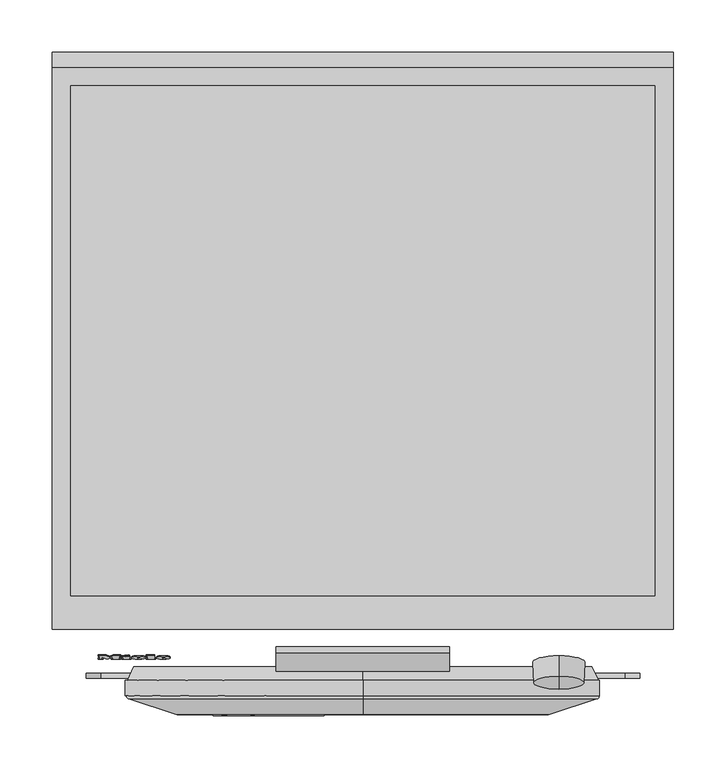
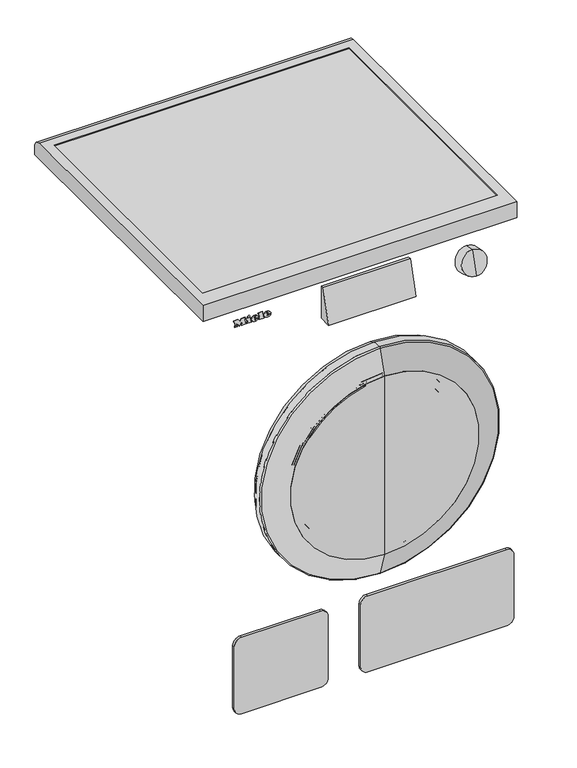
"""IFC4 building model written with IfcOpenShell, lengths in millimetres: proxy geometry, 12707010_NDS_WEC395WCS_LW : 11EC3951_NDS_12707010_WEC395WCS_LW."""

from ifc_helpers import new_model, si_unit, point, frame, frame_2d, origin, place, context, project, spatial, polyline, circle_curve, ellipse_curve, trimmed, segment, composite_curve, outline, extrude, source, transform, mapped, element, save
from ifc_brep_helpers import plane_surface, cylinder_surface, revolved_surface, extruded_surface, advanced_brep


def specialty_equipment_ca2fa9b3(model_context):
    return source(origin(), model_context, "Body", "SolidModel", [
        extrude(outline(polyline([(0.0, 0.0), (0.0, -1.8582), (-7.9458, -1.8582), (-11.286, 2.4168), (-14.6148, -1.8582), (-21.5574, -1.8582), (-21.5574, 0.0), (-20.1096, 0.0), (-20.1096, 7.6266), (-21.5574, 7.6266), (-21.5574, 9.5418), (-12.4602, 9.5418), (-12.4602, 7.6266), (-13.8624, 7.6266), (-13.8624, 2.6015777), (-8.7438, 9.5418), (-3.648, 2.7988753), (-3.648, 7.6266), (-5.016, 7.6266), (-5.016, 9.5418), (0.0, 9.5418), (0.0, 7.6266), (-1.3794, 7.6266), (-1.3794, 0.0), (0.0, 0.0)])), frame((-254.0, -578.2806922, 817.2814843), z_axis=(0.0, -0.9659258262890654, 0.2588190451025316), x_axis=(-1.0, 0.0, 0.0)), (0.0, 0.0, 1.0), 1.0),
        extrude(outline(polyline([(0.0, 0.0), (-0.0155448, -4.2740444), (-2.0506341, -4.2637237), (-2.0399312, 0.0), (0.0, 0.0)])), frame((-228.464, -577.9348294, 818.5722618), z_axis=(0.0, -0.9659258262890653, 0.2588190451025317), x_axis=(-0.4247202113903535, 0.23431526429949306, 0.8744764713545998)), (0.0, 0.0, 1.0), 1.0),
        extrude(outline(polyline([(-0.7030818, 3.4401063), (-3.9616202, -3.5057256), (-10.0405132, -0.6538993), (-10.6021632, -1.8511006), (-12.336041, -1.0376764), (-8.5158526, 7.1053568), (-6.7819748, 6.2919326), (-7.3581502, 5.0637692), (-3.1266627, 3.0786269), (-2.5504873, 4.3067903), (-0.7030818, 3.4401063)])), frame((-228.464, -577.9348294, 818.5722618), z_axis=(0.0, -0.9659258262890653, 0.2588190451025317), x_axis=(-0.4247202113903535, 0.23431526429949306, 0.8744764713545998)), (0.0, 0.0, 1.0), 1.0),
        extrude(outline(polyline([(0.0, 0.0), (0.0, -1.8582), (-7.8432, -1.8582), (-7.8432, 7.6266), (-9.2454, 7.6266), (-9.2454, 9.5418), (0.0, 9.5418), (0.0, 7.6266), (-1.368, 7.6266), (-1.368, 0.0), (0.0, 0.0)])), frame((-207.7388, -578.2806922, 817.2814843), z_axis=(0.0, -0.9659258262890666, 0.2588190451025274), x_axis=(-1.0, 0.0, 0.0)), (0.0, 0.0, 1.0), 1.0),
        advanced_brep(
        [(-216.0038, -581.029736, 810.8856165), (-216.0038, -580.7317318, 811.9977835), (-208.3772, -580.7317318, 811.9977835), (-221.6468, -580.7317318, 811.9977835), (-218.5118, -581.7290133, 808.2758781), (-208.571, -581.029736, 810.8856165), (-212.0138, -581.029736, 810.8856165), (-214.727, -581.3601962, 809.6523224), (-216.0038, -580.354063, 813.4072624), (-216.0038, -580.0324545, 814.6075219), (-214.0544, -580.0324545, 814.6075219), (-214.0544, -580.354063, 813.4072624), (-216.0038, -580.0638102, 810.6267974), (-214.727, -580.3942704, 809.3935033), (-212.0138, -580.0638102, 810.6267974), (-208.571, -580.0638102, 810.6267974), (-218.5118, -580.7630875, 808.017059), (-221.6468, -579.765806, 811.7389644), (-208.3772, -579.765806, 811.7389644), (-216.0038, -579.765806, 811.7389644), (-216.0038, -579.3881372, 813.1484434), (-214.0544, -579.3881372, 813.1484434), (-214.0544, -579.0665287, 814.3487028), (-216.0038, -579.0665287, 814.3487028)],
        [
            (0, 1),
            (1, 2),
            (2, 3, ellipse_curve(frame((-215.012, -580.7317318, 811.9977835), z_axis=(0.0, -0.9659258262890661, 0.2588190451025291), x_axis=(-1.0, 0.0, 0.0)), 6.6348, 5.4834)),
            (3, 4, circle_curve(frame((-217.2349378, -580.6314135, 812.3721763), z_axis=(0.0, -0.9659258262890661, 0.2588190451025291), x_axis=(0.0, -0.2588190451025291, -0.9659258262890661)), 4.4288556)),
            (4, 5, circle_curve(frame((-215.1448192, -579.8524717, 815.2792267), z_axis=(0.0, -0.9659258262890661, 0.2588190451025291), x_axis=(0.0, -0.2588190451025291, -0.9659258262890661)), 7.9940516)),
            (5, 6),
            (6, 7, circle_curve(frame((-214.1697412, -580.7553361, 811.909691), z_axis=(0.0, 0.9659258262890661, -0.2588190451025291), x_axis=(0.0, -0.2588190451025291, -0.9659258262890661)), 2.4025208)),
            (7, 0, circle_curve(frame((-214.727, -581.029736, 810.8856165), z_axis=(0.0, 0.9659258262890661, -0.2588190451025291), x_axis=(0.0, -0.2588190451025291, -0.9659258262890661)), 1.2768)),
            (8, 9),
            (9, 10, circle_curve(frame((-215.0291, -580.0324545, 814.6075219), z_axis=(0.0, 0.9659258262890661, -0.2588190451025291), x_axis=(0.0, -0.2588190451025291, -0.9659258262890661)), 0.9747)),
            (10, 11),
            (11, 8),
            (12, 13, circle_curve(frame((-214.727, -580.0638102, 810.6267974), z_axis=(0.0, -0.9659258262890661, 0.2588190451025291), x_axis=(0.0, -0.2588190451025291, -0.9659258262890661)), 1.2768)),
            (13, 14, circle_curve(frame((-214.1697412, -579.7894103, 811.650872), z_axis=(0.0, -0.9659258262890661, 0.2588190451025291), x_axis=(0.0, -0.2588190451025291, -0.9659258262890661)), 2.4025208)),
            (14, 15),
            (15, 16, circle_curve(frame((-215.1448192, -578.8865459, 815.0204076), z_axis=(0.0, 0.9659258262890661, -0.2588190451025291), x_axis=(0.0, -0.2588190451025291, -0.9659258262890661)), 7.9940516)),
            (16, 17, circle_curve(frame((-217.2349378, -579.6654877, 812.1133573), z_axis=(0.0, 0.9659258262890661, -0.2588190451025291), x_axis=(0.0, -0.2588190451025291, -0.9659258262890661)), 4.4288556)),
            (17, 18, ellipse_curve(frame((-215.012, -579.765806, 811.7389644), z_axis=(0.0, 0.9659258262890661, -0.2588190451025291), x_axis=(-1.0, 0.0, 0.0)), 6.6348, 5.4834)),
            (18, 19),
            (19, 12),
            (20, 21),
            (21, 22),
            (22, 23, circle_curve(frame((-215.0291, -579.0665287, 814.3487028), z_axis=(0.0, -0.9659258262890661, 0.2588190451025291), x_axis=(0.0, -0.2588190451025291, -0.9659258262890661)), 0.9747)),
            (23, 20),
            (0, 12),
            (19, 1),
            (18, 2),
            (5, 15),
            (14, 6),
            (17, 3),
            (13, 7),
            (16, 4),
            (8, 20),
            (23, 9),
            (22, 10),
            (21, 11),
        ],
        [
            plane_surface(frame((-216.0038, -580.7317318, 811.9977835), z_axis=(0.0, -0.9659258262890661, 0.2588190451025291), x_axis=(0.0, 0.2588190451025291, 0.9659258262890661))),
            plane_surface(frame((-216.0038, -579.765806, 811.7389644), z_axis=(0.0, 0.9659258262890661, -0.2588190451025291), x_axis=(0.0, -0.2588190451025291, -0.9659258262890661))),
            plane_surface(frame((-216.0038, -581.029736, 810.8856165), z_axis=(1.0, 0.0, 0.0), x_axis=(0.0, 0.9659258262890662, -0.25881904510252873))),
            plane_surface(frame((-216.0038, -580.7317318, 811.9977835), z_axis=(0.0, -0.25881904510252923, -0.9659258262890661), x_axis=(0.0, 0.9659258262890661, -0.25881904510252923))),
            plane_surface(frame((-208.571, -581.029736, 810.8856165), z_axis=(0.0, 0.25881904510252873, 0.9659258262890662), x_axis=(0.0, 0.9659258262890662, -0.25881904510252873))),
            extruded_surface(trimmed(ellipse_curve(frame((-215.012, -578.7998801, 811.4801454), z_axis=(0.0, -0.9659258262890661, 0.2588190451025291), x_axis=(-1.0, 0.0, 0.0)), 6.6348, 5.4834), [point((-208.3772, -578.7998801, 811.4801454))], [point((-221.6468, -578.7998801, 811.4801454))], True, "CARTESIAN"), (0.0, -0.965925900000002, 0.2588190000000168), 1.0000000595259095),
            revolved_surface(polyline([(-214.1697412, -580.4112283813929, 809.3302150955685), (-214.1697412, -581.3771542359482, 809.589034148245)]), (-214.1697412, -579.7894103, 811.650872), (0.0, 0.9659258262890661, -0.2588190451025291)),
            revolved_surface(polyline([(-214.727, -580.3942703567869, 809.393503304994), (-214.727, -581.3601962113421, 809.6523223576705)]), (-214.727, -580.0638102, 810.6267974), (0.0, 0.9659258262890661, -0.2588190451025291)),
            cylinder_surface(frame((-217.2349378, -579.6654877, 812.1133573), z_axis=(0.0, -0.9659258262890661, 0.2588190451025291), x_axis=(0.0, -0.2588190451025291, -0.9659258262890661)), 4.4288556),
            cylinder_surface(frame((-215.1448192, -578.8865459, 815.0204076), z_axis=(0.0, -0.9659258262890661, 0.2588190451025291), x_axis=(0.0, -0.2588190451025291, -0.9659258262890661)), 7.9940516),
            plane_surface(frame((-216.0038, -580.354063, 813.4072624), z_axis=(1.0, 0.0, 0.0), x_axis=(0.0, 0.9659258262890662, -0.25881904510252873))),
            revolved_surface(polyline([(-215.0291, -579.3187996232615, 813.407214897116), (-215.0291, -580.2847254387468, 813.6660339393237)]), (-215.0291, -579.0665287, 814.3487028), (0.0, 0.9659258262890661, -0.2588190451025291)),
            plane_surface(frame((-214.0544, -580.0324545, 814.6075219), z_axis=(-1.0, 0.0, 0.0), x_axis=(0.0, 0.9659258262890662, -0.25881904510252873))),
            plane_surface(frame((-214.0544, -580.354063, 813.4072624), z_axis=(0.0, 0.25881904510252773, 0.9659258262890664), x_axis=(0.0, 0.9659258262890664, -0.25881904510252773))),
        ],
        [
            (0, [[1, 2, 3, 4, 5, 6, 7, 8], [9, 10, 11, 12]]),
            (1, [[13, 14, 15, 16, 17, 18, 19, 20], [21, 22, 23, 24]]),
            (2, [[-1, 25, -20, 26]]),
            (3, [[-2, -26, -19, 27]]),
            (4, [[-6, 28, -15, 29]]),
            (5, [[-3, -27, -18, 30]]),
            (6, [[-7, -29, -14, 31]]),
            (7, [[-8, -31, -13, -25]]),
            (8, [[-4, -30, -17, 32]]),
            (9, [[-5, -32, -16, -28]]),
            (10, [[-9, 33, -24, 34]]),
            (11, [[-10, -34, -23, 35]]),
            (12, [[-11, -35, -22, 36]]),
            (13, [[-12, -36, -21, -33]]),
        ],
    ),
        advanced_brep(
        [(-192.212, -581.029736, 810.8856165), (-192.212, -580.7317318, 811.9977835), (-184.5854, -580.7317318, 811.9977835), (-197.855, -580.7317318, 811.9977835), (-194.72, -581.7290133, 808.2758781), (-184.7792, -581.029736, 810.8856165), (-188.222, -581.029736, 810.8856165), (-190.9352, -581.3601962, 809.6523224), (-192.212, -580.354063, 813.4072624), (-192.212, -580.0324545, 814.6075219), (-190.2626, -580.0324545, 814.6075219), (-190.2626, -580.354063, 813.4072624), (-192.212, -580.0638102, 810.6267974), (-190.9352, -580.3942704, 809.3935033), (-188.222, -580.0638102, 810.6267974), (-184.7792, -580.0638102, 810.6267974), (-194.72, -580.7630875, 808.017059), (-197.855, -579.765806, 811.7389644), (-184.5854, -579.765806, 811.7389644), (-192.212, -579.765806, 811.7389644), (-192.212, -579.3881372, 813.1484434), (-190.2626, -579.3881372, 813.1484434), (-190.2626, -579.0665287, 814.3487028), (-192.212, -579.0665287, 814.3487028)],
        [
            (0, 1),
            (1, 2),
            (2, 3, ellipse_curve(frame((-191.2202, -580.7317318, 811.9977835), z_axis=(0.0, -0.965925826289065, 0.25881904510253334), x_axis=(-1.0, 0.0, 0.0)), 6.6348, 5.4834)),
            (3, 4, circle_curve(frame((-193.4431378, -580.6314135, 812.3721763), z_axis=(0.0, -0.9659258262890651, 0.25881904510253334), x_axis=(0.0, -0.2588190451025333, -0.9659258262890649)), 4.4288556)),
            (4, 5, circle_curve(frame((-191.3530192, -579.8524717, 815.2792267), z_axis=(0.0, -0.9659258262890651, 0.25881904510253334), x_axis=(0.0, -0.2588190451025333, -0.9659258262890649)), 7.9940516)),
            (5, 6),
            (6, 7, circle_curve(frame((-190.3779412, -580.7553361, 811.909691), z_axis=(0.0, 0.9659258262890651, -0.25881904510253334), x_axis=(0.0, -0.2588190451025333, -0.9659258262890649)), 2.4025208)),
            (7, 0, circle_curve(frame((-190.9352, -581.029736, 810.8856165), z_axis=(0.0, 0.9659258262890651, -0.25881904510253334), x_axis=(0.0, -0.2588190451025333, -0.9659258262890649)), 1.2768)),
            (8, 9),
            (9, 10, circle_curve(frame((-191.2373, -580.0324545, 814.6075219), z_axis=(0.0, 0.9659258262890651, -0.25881904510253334), x_axis=(0.0, -0.2588190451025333, -0.9659258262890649)), 0.9747)),
            (10, 11),
            (11, 8),
            (12, 13, circle_curve(frame((-190.9352, -580.0638102, 810.6267974), z_axis=(0.0, -0.9659258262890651, 0.25881904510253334), x_axis=(0.0, -0.2588190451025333, -0.9659258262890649)), 1.2768)),
            (13, 14, circle_curve(frame((-190.3779412, -579.7894103, 811.650872), z_axis=(0.0, -0.9659258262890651, 0.25881904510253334), x_axis=(0.0, -0.2588190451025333, -0.9659258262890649)), 2.4025208)),
            (14, 15),
            (15, 16, circle_curve(frame((-191.3530192, -578.8865459, 815.0204076), z_axis=(0.0, 0.9659258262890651, -0.25881904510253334), x_axis=(0.0, -0.2588190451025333, -0.9659258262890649)), 7.9940516)),
            (16, 17, circle_curve(frame((-193.4431378, -579.6654877, 812.1133573), z_axis=(0.0, 0.9659258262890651, -0.25881904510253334), x_axis=(0.0, -0.2588190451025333, -0.9659258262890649)), 4.4288556)),
            (17, 18, ellipse_curve(frame((-191.2202, -579.765806, 811.7389644), z_axis=(0.0, 0.965925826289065, -0.25881904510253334), x_axis=(-1.0, 0.0, 0.0)), 6.6348, 5.4834)),
            (18, 19),
            (19, 12),
            (20, 21),
            (21, 22),
            (22, 23, circle_curve(frame((-191.2373, -579.0665287, 814.3487028), z_axis=(0.0, -0.9659258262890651, 0.25881904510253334), x_axis=(0.0, -0.2588190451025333, -0.9659258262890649)), 0.9747)),
            (23, 20),
            (0, 12),
            (19, 1),
            (18, 2),
            (5, 15),
            (14, 6),
            (17, 3),
            (13, 7),
            (16, 4),
            (8, 20),
            (23, 9),
            (22, 10),
            (21, 11),
        ],
        [
            plane_surface(frame((-192.212, -580.7317318, 811.9977835), z_axis=(0.0, -0.965925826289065, 0.25881904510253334), x_axis=(0.0, 0.25881904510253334, 0.965925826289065))),
            plane_surface(frame((-192.212, -579.765806, 811.7389644), z_axis=(0.0, 0.965925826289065, -0.25881904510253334), x_axis=(0.0, -0.25881904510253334, -0.965925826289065))),
            plane_surface(frame((-192.212, -581.029736, 810.8856165), z_axis=(1.0, 0.0, 0.0), x_axis=(0.0, 0.9659258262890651, -0.2588190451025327))),
            plane_surface(frame((-192.212, -580.7317318, 811.9977835), z_axis=(0.0, -0.25881904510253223, -0.9659258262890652), x_axis=(0.0, 0.9659258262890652, -0.25881904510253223))),
            plane_surface(frame((-184.7792, -581.029736, 810.8856165), z_axis=(0.0, 0.2588190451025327, 0.9659258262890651), x_axis=(0.0, 0.9659258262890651, -0.2588190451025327))),
            extruded_surface(trimmed(ellipse_curve(frame((-191.2202, -578.7998801, 811.4801454), z_axis=(0.0, -0.965925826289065, 0.25881904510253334), x_axis=(-1.0, 0.0, 0.0)), 6.6348, 5.4834), [point((-184.5854, -578.7998801, 811.4801454))], [point((-197.855, -578.7998801, 811.4801454))], True, "CARTESIAN"), (0.0, -0.965925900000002, 0.2588190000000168), 1.0000000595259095),
            revolved_surface(polyline([(-190.3779412, -580.4112283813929, 809.3302150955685), (-190.3779412, -581.3771542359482, 809.589034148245)]), (-190.3779412, -579.7894103, 811.650872), (0.0, 0.9659258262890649, -0.2588190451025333)),
            revolved_surface(polyline([(-190.9352, -580.3942703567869, 809.393503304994), (-190.9352, -581.3601962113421, 809.6523223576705)]), (-190.9352, -580.0638102, 810.6267974), (0.0, 0.9659258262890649, -0.2588190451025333)),
            cylinder_surface(frame((-193.4431378, -579.6654877, 812.1133573), z_axis=(0.0, -0.9659258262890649, 0.2588190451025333), x_axis=(0.0, -0.2588190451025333, -0.9659258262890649)), 4.4288556),
            cylinder_surface(frame((-191.3530192, -578.8865459, 815.0204076), z_axis=(0.0, -0.9659258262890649, 0.2588190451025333), x_axis=(0.0, -0.2588190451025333, -0.9659258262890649)), 7.9940516),
            plane_surface(frame((-192.212, -580.354063, 813.4072624), z_axis=(1.0, 0.0, 0.0), x_axis=(0.0, 0.9659258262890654, -0.25881904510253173))),
            revolved_surface(polyline([(-191.2373, -579.3187996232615, 813.407214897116), (-191.2373, -580.2847254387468, 813.6660339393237)]), (-191.2373, -579.0665287, 814.3487028), (0.0, 0.9659258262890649, -0.2588190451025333)),
            plane_surface(frame((-190.2626, -580.0324545, 814.6075219), z_axis=(-1.0, 0.0, 0.0), x_axis=(0.0, 0.9659258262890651, -0.2588190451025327))),
            plane_surface(frame((-190.2626, -580.354063, 813.4072624), z_axis=(0.0, 0.2588190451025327, 0.9659258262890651), x_axis=(0.0, 0.9659258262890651, -0.2588190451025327))),
        ],
        [
            (0, [[1, 2, 3, 4, 5, 6, 7, 8], [9, 10, 11, 12]]),
            (1, [[13, 14, 15, 16, 17, 18, 19, 20], [21, 22, 23, 24]]),
            (2, [[-1, 25, -20, 26]]),
            (3, [[-2, -26, -19, 27]]),
            (4, [[-6, 28, -15, 29]]),
            (5, [[-3, -27, -18, 30]]),
            (6, [[-7, -29, -14, 31]]),
            (7, [[-8, -31, -13, -25]]),
            (8, [[-4, -30, -17, 32]]),
            (9, [[-5, -32, -16, -28]]),
            (10, [[-9, 33, -24, 34]]),
            (11, [[-10, -34, -23, 35]]),
            (12, [[-11, -35, -22, 36]]),
            (13, [[-12, -36, -21, -33]]),
        ],
    ),
        extrude(outline(composite_curve([segment(trimmed(circle_curve(frame_2d((475.0, 0.0)), 179.0077488), [point((650.0572384, -37.3996979))], [point((581.8669772, -143.6078804))], False, "CARTESIAN"), True, "CONTINUOUS"), segment(polyline([(581.8669772, -143.6078804), (580.6729844, -142.0033925)]), True, "CONTINUOUS"), segment(trimmed(circle_curve(frame_2d((475.0, 0.0)), 177.0077488), [point((580.6729844, -142.0033925))], [point((648.1013763, -36.9818423))], True, "CARTESIAN"), True, "CONTINUOUS"), segment(polyline([(648.1013763, -36.9818423), (650.0572384, -37.3996979)]), True, "CONTINUOUS")], self_intersect=False)), frame((0.0, -636.0, 0.0), z_axis=(0.0, 1.0, 0.0), x_axis=(0.0, 0.0, 1.0)), (0.0, 0.0, 1.0), 1.0),
        advanced_brep(
        [(0.0, -610.8709778, 313.0), (0.0, -610.8709778, 637.0), (0.0, -592.0, 637.0), (0.0, -592.0, 313.0), (0.0, -628.93239, 652.7005461), (0.0, -628.93239, 297.2994539), (0.0, -630.9005671, 650.4364173), (0.0, -630.9005671, 299.5635827), (0.0, -592.0, 326.0), (0.0, -592.0, 624.0), (0.0, -589.0, 326.0), (0.0, -589.0, 624.0), (0.0, -589.0, 475.0), (0.0, -635.0, 296.0), (0.0, -635.0, 654.0), (0.0, -635.0, 475.0)],
        [
            (0, 1, circle_curve(frame((0.0, -610.8709778, 475.0), z_axis=(0.0, 1.0, 0.0), x_axis=(0.0, 0.0, 1.0)), 162.0)),
            (1, 2),
            (2, 3, circle_curve(frame((0.0, -592.0, 475.0), z_axis=(0.0, -1.0, 0.0), x_axis=(0.0, 0.0, 1.0)), 162.0)),
            (3, 0),
            (4, 5, circle_curve(frame((0.0, -628.93239, 475.0), z_axis=(0.0, 1.0, 0.0), x_axis=(0.0, 0.0, 1.0)), 177.7005461)),
            (5, 0),
            (0, 1, circle_curve(frame((0.0, -610.8709778, 475.0), z_axis=(0.0, -1.0, 0.0), x_axis=(0.0, 0.0, 1.0)), 162.0)),
            (1, 4),
            (6, 7, circle_curve(frame((0.0, -630.9005671, 475.0), z_axis=(0.0, 1.0, 0.0), x_axis=(0.0, 0.0, 1.0)), 175.4364173)),
            (7, 5),
            (4, 6),
            (2, 3, circle_curve(frame((0.0, -592.0, 475.0), z_axis=(0.0, 1.0, 0.0), x_axis=(0.0, 0.0, 1.0)), 162.0)),
            (3, 8),
            (8, 9, circle_curve(frame((0.0, -592.0, 475.0), z_axis=(0.0, -1.0, 0.0), x_axis=(0.0, 0.0, 1.0)), 149.0)),
            (9, 2),
            (10, 11, circle_curve(frame((0.0, -589.0, 475.0), z_axis=(0.0, 1.0, 0.0), x_axis=(0.0, 0.0, 1.0)), 149.0)),
            (11, 12),
            (12, 10),
            (8, 9, circle_curve(frame((0.0, -592.0, 475.0), z_axis=(0.0, 1.0, 0.0), x_axis=(0.0, 0.0, 1.0)), 149.0)),
            (9, 11),
            (10, 8),
            (13, 14, circle_curve(frame((0.0, -635.0, 475.0), z_axis=(0.0, 1.0, 0.0), x_axis=(0.0, 0.0, 1.0)), 179.0)),
            (14, 6),
            (6, 7, circle_curve(frame((0.0, -630.9005671, 475.0), z_axis=(0.0, -1.0, 0.0), x_axis=(0.0, 0.0, 1.0)), 175.4364173)),
            (7, 13),
            (14, 13, circle_curve(frame((0.0, -635.0, 475.0), z_axis=(0.0, 1.0, 0.0), x_axis=(0.0, 0.0, 1.0)), 179.0)),
            (15, 14),
            (13, 15),
            (11, 10, circle_curve(frame((0.0, -589.0, 475.0), z_axis=(0.0, 1.0, 0.0), x_axis=(0.0, 0.0, 1.0)), 149.0)),
            (5, 4, circle_curve(frame((0.0, -628.93239, 475.0), z_axis=(0.0, 1.0, 0.0), x_axis=(0.0, 0.0, 1.0)), 177.7005461)),
        ],
        [
            cylinder_surface(frame((0.0, -2342.7556811, 475.0), z_axis=(0.0, -1.0, 0.0), x_axis=(0.0, 0.0, 1.0)), 162.0),
            revolved_surface(polyline([(0.0, -610.8709778, 637.0), (0.0, -628.93239, 652.7005461)]), (0.0, -2342.7556811, 475.0), (0.0, -1.0, 0.0)),
            revolved_surface(polyline([(0.0, -628.93239, 652.7005461), (0.0, -630.9005671, 650.4364173)]), (0.0, -2342.7556811, 475.0), (0.0, -1.0, 0.0)),
            plane_surface(frame((0.0, -592.0, 475.0), z_axis=(0.0, 1.0, 0.0), x_axis=(0.0, 0.0, 1.0))),
            plane_surface(frame((0.0, -589.0, 475.0), z_axis=(0.0, 1.0, 0.0), x_axis=(0.0, 0.0, 1.0))),
            cylinder_surface(frame((0.0, -2342.7556811, 475.0), z_axis=(0.0, -1.0, 0.0), x_axis=(0.0, 0.0, 1.0)), 149.0),
            revolved_surface(polyline([(0.0, -630.9005671, 650.4364173), (0.0, -635.0, 654.0)]), (0.0, -2342.7556811, 475.0), (0.0, -1.0, 0.0)),
            plane_surface(frame((0.0, -635.0, 475.0), z_axis=(0.0, -1.0, 0.0), x_axis=(0.0, 0.0, 1.0))),
        ],
        [
            (0, [[1, 2, 3, 4]]),
            (1, [[5, 6, 7, 8]]),
            (2, [[9, 10, -5, 11]]),
            (3, [[12, 13, 14, 15]]),
            (4, [[16, 17, 18]]),
            (5, [[19, 20, -16, 21]]),
            (6, [[22, 23, 24, 25]]),
            (6, [[26, -25, -9, -23]]),
            (7, [[27, -22, 28]]),
            (7, [[-28, -26, -27]]),
            (4, [[29, -18, -17]]),
            (5, [[-14, -21, -29, -20]]),
            (3, [[-3, -15, -19, -13]]),
            (0, [[-7, -4, -12, -2]]),
            (1, [[30, -8, -1, -6]]),
            (2, [[-24, -11, -30, -10]]),
        ],
    ),
        advanced_brep(
        [(0.0, -602.0, 313.0), (0.0, -602.0, 637.0), (0.0, -602.0, 702.0), (0.0, -602.0, 248.0), (0.0, -592.0, 326.0), (0.0, -592.0, 624.0), (0.0, -592.0, 637.0), (0.0, -592.0, 313.0), (0.0, -589.0, 326.0), (0.0, -589.0, 624.0), (0.0, -589.0, 254.0), (0.0, -589.0, 696.0)],
        [
            (0, 1, circle_curve(frame((0.0, -602.0, 475.0), z_axis=(0.0, 1.0, 0.0), x_axis=(0.0, 0.0, 1.0)), 162.0)),
            (1, 2),
            (2, 3, circle_curve(frame((0.0, -602.0, 475.0), z_axis=(0.0, -1.0, 0.0), x_axis=(0.0, 0.0, 1.0)), 227.0)),
            (3, 0),
            (4, 5, circle_curve(frame((0.0, -592.0, 475.0), z_axis=(0.0, 1.0, 0.0), x_axis=(0.0, 0.0, 1.0)), 149.0)),
            (5, 6),
            (6, 7, circle_curve(frame((0.0, -592.0, 475.0), z_axis=(0.0, -1.0, 0.0), x_axis=(0.0, 0.0, 1.0)), 162.0)),
            (7, 4),
            (5, 4, circle_curve(frame((0.0, -592.0, 475.0), z_axis=(0.0, 1.0, 0.0), x_axis=(0.0, 0.0, 1.0)), 149.0)),
            (7, 6, circle_curve(frame((0.0, -592.0, 475.0), z_axis=(0.0, -1.0, 0.0), x_axis=(0.0, 0.0, 1.0)), 162.0)),
            (8, 9, circle_curve(frame((0.0, -589.0, 475.0), z_axis=(0.0, 1.0, 0.0), x_axis=(0.0, 0.0, 1.0)), 149.0)),
            (9, 5),
            (4, 8),
            (2, 3, circle_curve(frame((0.0, -602.0, 475.0), z_axis=(0.0, 1.0, 0.0), x_axis=(0.0, 0.0, 1.0)), 227.0)),
            (3, 10),
            (10, 11, circle_curve(frame((0.0, -589.0, 475.0), z_axis=(0.0, -1.0, 0.0), x_axis=(0.0, 0.0, 1.0)), 221.0)),
            (11, 2),
            (10, 11, circle_curve(frame((0.0, -589.0, 475.0), z_axis=(0.0, 1.0, 0.0), x_axis=(0.0, 0.0, 1.0)), 221.0)),
            (11, 9),
            (8, 10),
            (8, 9, circle_curve(frame((0.0, -589.0, 475.0), z_axis=(0.0, -1.0, 0.0), x_axis=(0.0, 0.0, 1.0)), 149.0)),
            (1, 0, circle_curve(frame((0.0, -602.0, 475.0), z_axis=(0.0, 1.0, 0.0), x_axis=(0.0, 0.0, 1.0)), 162.0)),
            (6, 1),
            (0, 7),
        ],
        [
            plane_surface(frame((0.0, -602.0, 475.0), z_axis=(0.0, -1.0, 0.0), x_axis=(0.0, 0.0, 1.0))),
            plane_surface(frame((0.0, -592.0, 475.0), z_axis=(0.0, -1.0, 0.0), x_axis=(0.0, 0.0, 1.0))),
            revolved_surface(polyline([(0.0, -592.0, 624.0), (0.0, -589.0, 624.0)]), (0.0, -2342.7556811, 475.0), (0.0, -1.0, 0.0)),
            revolved_surface(polyline([(0.0, -589.0, 696.0), (0.0, -602.0, 702.0)]), (0.0, -2342.7556811, 475.0), (0.0, -1.0, 0.0)),
            plane_surface(frame((0.0, -589.0, 475.0), z_axis=(0.0, 1.0, 0.0), x_axis=(0.0, 0.0, 1.0))),
            revolved_surface(polyline([(0.0, -602.0, 637.0), (0.0, -592.0, 637.0)]), (0.0, -2342.7556811, 475.0), (0.0, -1.0, 0.0)),
        ],
        [
            (0, [[1, 2, 3, 4]]),
            (1, [[5, 6, 7, 8]]),
            (1, [[9, -8, 10, -6]]),
            (2, [[11, 12, -5, 13]]),
            (3, [[14, 15, 16, 17]]),
            (4, [[18, 19, -11, 20]]),
            (4, [[-16, -20, 21, -19]]),
            (3, [[-3, -17, -18, -15]]),
            (0, [[22, -4, -14, -2]]),
            (5, [[-7, 23, -1, 24]]),
            (5, [[-10, -24, -22, -23]]),
            (2, [[-21, -13, -9, -12]]),
        ],
    ),
        advanced_brep(
        [(0.0, -602.0, 313.0), (0.0, -602.0, 637.0), (0.0, -610.8709778, 637.0), (0.0, -610.8709778, 313.0), (0.0, -602.0, 310.0), (0.0, -602.0, 640.0), (0.0, -609.7493238, 310.0), (0.0, -609.7493238, 640.0), (0.0, -628.93239, 297.2994539), (0.0, -628.93239, 652.7005461), (0.0, -626.9642129, 654.9646748), (0.0, -626.9642129, 295.0353252)],
        [
            (0, 1, circle_curve(frame((0.0, -602.0, 475.0), z_axis=(0.0, 1.0, 0.0), x_axis=(0.0, 0.0, 1.0)), 162.0)),
            (1, 2),
            (2, 3, circle_curve(frame((0.0, -610.8709778, 475.0), z_axis=(0.0, -1.0, 0.0), x_axis=(0.0, 0.0, 1.0)), 162.0)),
            (3, 0),
            (4, 5, circle_curve(frame((0.0, -602.0, 475.0), z_axis=(0.0, 1.0, 0.0), x_axis=(0.0, 0.0, 1.0)), 165.0)),
            (5, 1),
            (0, 4),
            (6, 7, circle_curve(frame((0.0, -609.7493238, 475.0), z_axis=(0.0, 1.0, 0.0), x_axis=(0.0, 0.0, 1.0)), 165.0)),
            (7, 5),
            (4, 6),
            (2, 3, circle_curve(frame((0.0, -610.8709778, 475.0), z_axis=(0.0, 1.0, 0.0), x_axis=(0.0, 0.0, 1.0)), 162.0)),
            (3, 8),
            (8, 9, circle_curve(frame((0.0, -628.93239, 475.0), z_axis=(0.0, -1.0, 0.0), x_axis=(0.0, 0.0, 1.0)), 177.7005461)),
            (9, 2),
            (8, 9, circle_curve(frame((0.0, -628.93239, 475.0), z_axis=(0.0, 1.0, 0.0), x_axis=(0.0, 0.0, 1.0)), 177.7005461)),
            (9, 10),
            (10, 11, circle_curve(frame((0.0, -626.9642129, 475.0), z_axis=(0.0, -1.0, 0.0), x_axis=(0.0, 0.0, 1.0)), 179.9646748)),
            (11, 8),
            (11, 10, circle_curve(frame((0.0, -626.9642129, 475.0), z_axis=(0.0, -1.0, 0.0), x_axis=(0.0, 0.0, 1.0)), 179.9646748)),
            (1, 0, circle_curve(frame((0.0, -602.0, 475.0), z_axis=(0.0, 1.0, 0.0), x_axis=(0.0, 0.0, 1.0)), 162.0)),
            (10, 7),
            (6, 11),
            (6, 7, circle_curve(frame((0.0, -609.7493238, 475.0), z_axis=(0.0, -1.0, 0.0), x_axis=(0.0, 0.0, 1.0)), 165.0)),
            (5, 4, circle_curve(frame((0.0, -602.0, 475.0), z_axis=(0.0, 1.0, 0.0), x_axis=(0.0, 0.0, 1.0)), 165.0)),
        ],
        [
            revolved_surface(polyline([(0.0, -610.8709778, 637.0), (0.0, -602.0, 637.0)]), (0.0, -2342.7556811, 475.0), (0.0, -1.0, 0.0)),
            plane_surface(frame((0.0, -602.0, 475.0), z_axis=(0.0, 1.0, 0.0), x_axis=(0.0, 0.0, 1.0))),
            cylinder_surface(frame((0.0, -2342.7556811, 475.0), z_axis=(0.0, -1.0, 0.0), x_axis=(0.0, 0.0, 1.0)), 165.0),
            revolved_surface(polyline([(0.0, -628.93239, 652.7005461), (0.0, -610.8709778, 637.0)]), (0.0, -2342.7556811, 475.0), (0.0, -1.0, 0.0)),
            revolved_surface(polyline([(0.0, -626.9642129, 654.9646748), (0.0, -628.93239, 652.7005461)]), (0.0, -2342.7556811, 475.0), (0.0, -1.0, 0.0)),
            revolved_surface(polyline([(0.0, -609.7493238, 640.0), (0.0, -626.9642129, 654.9646748)]), (0.0, -2342.7556811, 475.0), (0.0, -1.0, 0.0)),
        ],
        [
            (0, [[1, 2, 3, 4]]),
            (1, [[5, 6, -1, 7]]),
            (2, [[8, 9, -5, 10]]),
            (3, [[11, 12, 13, 14]]),
            (4, [[15, 16, 17, 18]]),
            (4, [[-13, -18, 19, -16]]),
            (3, [[-3, -14, -15, -12]]),
            (0, [[20, -4, -11, -2]]),
            (5, [[-17, 21, -8, 22]]),
            (5, [[-19, -22, 23, -21]]),
            (1, [[24, -7, -20, -6]]),
            (2, [[-23, -10, -24, -9]]),
        ],
    ),
        advanced_brep(
        [(0.0, -626.9642129, 295.0353252), (0.0, -626.9642129, 654.9646748), (0.0, -630.9005671, 650.4364173), (0.0, -630.9005671, 299.5635827), (0.0, -602.0, 247.0), (0.0, -602.0, 703.0), (0.0, -602.0, 640.0), (0.0, -602.0, 310.0), (0.0, -609.7493238, 640.0), (0.0, -609.7493238, 310.0), (0.0, -635.0, 296.0), (0.0, -635.0, 654.0), (0.0, -616.8993073, 247.0), (0.0, -616.8993073, 703.0), (0.0, -619.7524768, 249.072949), (0.0, -619.7524768, 700.927051)],
        [
            (0, 1, circle_curve(frame((0.0, -626.9642129, 475.0), z_axis=(0.0, 1.0, 0.0), x_axis=(0.0, 0.0, 1.0)), 179.9646748)),
            (1, 2),
            (2, 3, circle_curve(frame((0.0, -630.9005671, 475.0), z_axis=(0.0, -1.0, 0.0), x_axis=(0.0, 0.0, 1.0)), 175.4364173)),
            (3, 0),
            (4, 5, circle_curve(frame((0.0, -602.0, 475.0), z_axis=(0.0, 1.0, 0.0), x_axis=(0.0, 0.0, 1.0)), 228.0)),
            (5, 6),
            (6, 7, circle_curve(frame((0.0, -602.0, 475.0), z_axis=(0.0, -1.0, 0.0), x_axis=(0.0, 0.0, 1.0)), 165.0)),
            (7, 4),
            (6, 8),
            (8, 9, circle_curve(frame((0.0, -609.7493238, 475.0), z_axis=(0.0, -1.0, 0.0), x_axis=(0.0, 0.0, 1.0)), 165.0)),
            (9, 7),
            (2, 3, circle_curve(frame((0.0, -630.9005671, 475.0), z_axis=(0.0, 1.0, 0.0), x_axis=(0.0, 0.0, 1.0)), 175.4364173)),
            (3, 10),
            (10, 11, circle_curve(frame((0.0, -635.0, 475.0), z_axis=(0.0, -1.0, 0.0), x_axis=(0.0, 0.0, 1.0)), 179.0)),
            (11, 2),
            (12, 13, circle_curve(frame((0.0, -616.8993073, 475.0), z_axis=(0.0, 1.0, 0.0), x_axis=(0.0, 0.0, 1.0)), 228.0)),
            (13, 5),
            (4, 12),
            (13, 12, circle_curve(frame((0.0, -616.8993073, 475.0), z_axis=(0.0, 1.0, 0.0), x_axis=(0.0, 0.0, 1.0)), 228.0)),
            (4, 5, circle_curve(frame((0.0, -602.0, 475.0), z_axis=(0.0, -1.0, 0.0), x_axis=(0.0, 0.0, 1.0)), 228.0)),
            (14, 15, circle_curve(frame((0.0, -619.7524768, 475.0), z_axis=(0.0, 1.0, 0.0), x_axis=(0.0, 0.0, 1.0)), 225.927051)),
            (15, 13, circle_curve(frame((0.0, -616.8993073, 700.0), z_axis=(-1.0, 0.0, 0.0), x_axis=(0.0, 1.0, 0.0)), 3.0)),
            (12, 14, circle_curve(frame((0.0, -616.8993073, 250.0), z_axis=(-1.0, 0.0, 0.0), x_axis=(0.0, 1.0, 0.0)), 3.0)),
            (15, 14, circle_curve(frame((0.0, -619.7524768, 475.0), z_axis=(0.0, 1.0, 0.0), x_axis=(0.0, 0.0, 1.0)), 225.927051)),
            (10, 11, circle_curve(frame((0.0, -635.0, 475.0), z_axis=(0.0, 1.0, 0.0), x_axis=(0.0, 0.0, 1.0)), 179.0)),
            (11, 15),
            (14, 10),
            (1, 0, circle_curve(frame((0.0, -626.9642129, 475.0), z_axis=(0.0, 1.0, 0.0), x_axis=(0.0, 0.0, 1.0)), 179.9646748)),
            (8, 1),
            (0, 9),
            (8, 9, circle_curve(frame((0.0, -609.7493238, 475.0), z_axis=(0.0, 1.0, 0.0), x_axis=(0.0, 0.0, 1.0)), 165.0)),
            (7, 6, circle_curve(frame((0.0, -602.0, 475.0), z_axis=(0.0, -1.0, 0.0), x_axis=(0.0, 0.0, 1.0)), 165.0)),
        ],
        [
            revolved_surface(polyline([(0.0, -630.9005671, 650.4364173), (0.0, -626.9642129, 654.9646748)]), (0.0, -2342.7556811, 475.0), (0.0, -1.0, 0.0)),
            plane_surface(frame((0.0, -602.0, 475.0), z_axis=(0.0, 1.0, 0.0), x_axis=(0.0, 0.0, 1.0))),
            revolved_surface(polyline([(0.0, -609.7493238, 640.0), (0.0, -602.0, 640.0)]), (0.0, -2342.7556811, 475.0), (0.0, -1.0, 0.0)),
            revolved_surface(polyline([(0.0, -635.0, 654.0), (0.0, -630.9005671, 650.4364173)]), (0.0, -2342.7556811, 475.0), (0.0, -1.0, 0.0)),
            cylinder_surface(frame((0.0, -2342.7556811, 475.0), z_axis=(0.0, -1.0, 0.0), x_axis=(0.0, 0.0, 1.0)), 228.0),
            revolved_surface(trimmed(ellipse_curve(frame((0.0, -616.8993073, 700.0), z_axis=(1.0, 0.0, 0.0), x_axis=(0.0, 1.0, 0.0)), 3.0, 3.0), [point((0.0, -616.8993073, 703.0))], [point((0.0, -619.7524768, 700.927051))], True, "CARTESIAN"), (0.0, -2342.7556811, 475.0), (0.0, -1.0, 0.0)),
            revolved_surface(polyline([(0.0, -619.7524768, 700.927051), (0.0, -635.0, 654.0)]), (0.0, -2342.7556811, 475.0), (0.0, -1.0, 0.0)),
            revolved_surface(polyline([(0.0, -626.9642129, 654.9646748), (0.0, -609.7493238, 640.0)]), (0.0, -2342.7556811, 475.0), (0.0, -1.0, 0.0)),
        ],
        [
            (0, [[1, 2, 3, 4]]),
            (1, [[5, 6, 7, 8]]),
            (2, [[-7, 9, 10, 11]]),
            (3, [[12, 13, 14, 15]]),
            (4, [[16, 17, -5, 18]]),
            (4, [[19, -18, 20, -17]]),
            (5, [[21, 22, -16, 23]]),
            (5, [[24, -23, -19, -22]]),
            (6, [[25, 26, -21, 27]]),
            (6, [[-14, -27, -24, -26]]),
            (3, [[-3, -15, -25, -13]]),
            (0, [[28, -4, -12, -2]]),
            (7, [[-10, 29, -1, 30]]),
            (7, [[31, -30, -28, -29]]),
            (1, [[-20, -8, 32, -6]]),
            (2, [[-32, -11, -31, -9]]),
        ],
    ),
        advanced_brep(
        [(188.0, -610.51771, 774.0406758), (188.0, -598.119323, 820.312086), (188.0, -578.5295239, 816.1481457), (188.0, -591.4704761, 767.8518543), (188.0, -604.3185165, 797.1763809), (188.0, -585.0, 792.0)],
        [
            (0, 1, circle_curve(frame((188.0, -604.3185165, 797.1763809), z_axis=(0.0, 0.9659258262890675, -0.2588190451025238), x_axis=(0.0, 0.2588190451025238, 0.9659258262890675)), 23.9518444)),
            (1, 2),
            (2, 3, circle_curve(frame((188.0, -585.0, 792.0), z_axis=(0.0, -0.9659258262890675, 0.2588190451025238), x_axis=(0.0, 0.2588190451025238, 0.9659258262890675)), 25.0)),
            (3, 0),
            (1, 0, circle_curve(frame((188.0, -604.3185165, 797.1763809), z_axis=(0.0, 0.9659258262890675, -0.2588190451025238), x_axis=(0.0, 0.2588190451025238, 0.9659258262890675)), 23.9518444)),
            (3, 2, circle_curve(frame((188.0, -585.0, 792.0), z_axis=(0.0, -0.9659258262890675, 0.2588190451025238), x_axis=(0.0, 0.2588190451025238, 0.9659258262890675)), 25.0)),
            (4, 1),
            (0, 4),
            (2, 5),
            (5, 3),
        ],
        [
            revolved_surface(polyline([(188.0, -578.5295239, 816.1481457), (188.0, -598.119323, 820.312086)]), (188.0, -553.6611319, 783.6027756), (0.0, -0.9659258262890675, 0.2588190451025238)),
            plane_surface(frame((188.0, -604.3185165, 797.1763809), z_axis=(0.0, -0.9659258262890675, 0.2588190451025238), x_axis=(0.0, 0.2588190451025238, 0.9659258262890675))),
            plane_surface(frame((188.0, -585.0, 792.0), z_axis=(0.0, 0.9659258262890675, -0.2588190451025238), x_axis=(0.0, 0.2588190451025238, 0.9659258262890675))),
        ],
        [
            (0, [[1, 2, 3, 4]]),
            (0, [[5, -4, 6, -2]]),
            (1, [[7, -1, 8]]),
            (1, [[-8, -5, -7]]),
            (2, [[-3, 9, 10]]),
            (2, [[-6, -10, -9]]),
        ],
    ),
        advanced_brep(
        [(280.0, -32.0, 848.0), (-280.0, -32.0, 848.0), (-280.0, -521.0, 848.0), (280.0, -521.0, 848.0), (280.0, -32.0, 850.0), (-280.0, -32.0, 850.0), (-280.0, -521.0, 850.0), (280.0, -521.0, 850.0), (298.0, -14.5, 850.0), (298.0, -553.0, 850.0), (298.0, -553.0, 818.0), (298.0, 0.0, 818.0), (298.0, 0.0, 835.5), (-298.0, -14.5, 850.0), (-298.0, 0.0, 835.5), (-298.0, 0.0, 818.0), (-298.0, -553.0, 818.0), (-298.0, -553.0, 850.0)],
        [
            (0, 1),
            (1, 2),
            (2, 3),
            (3, 0),
            (0, 4),
            (4, 5),
            (5, 1),
            (5, 6),
            (6, 2),
            (6, 7),
            (7, 3),
            (7, 4),
            (8, 9),
            (9, 10),
            (10, 11),
            (11, 12),
            (12, 8, circle_curve(frame((298.0, -14.5, 835.5), z_axis=(1.0, 0.0, 0.0), x_axis=(0.0, 0.0, -1.0)), 14.5)),
            (13, 14, circle_curve(frame((-298.0, -14.5, 835.5), z_axis=(-1.0, 0.0, 0.0), x_axis=(0.0, 0.0, -1.0)), 14.5)),
            (14, 15),
            (15, 16),
            (16, 17),
            (17, 13),
            (12, 14),
            (13, 8),
            (11, 15),
            (10, 16),
            (9, 17),
        ],
        [
            plane_surface(frame((-179.0425004, -32.0, 848.0), z_axis=(0.0, 0.0, 1.0), x_axis=(1.0, 0.0, 0.0))),
            plane_surface(frame((280.0, -32.0, 850.0), z_axis=(0.0, -1.0, 0.0), x_axis=(0.0, 0.0, -1.0))),
            plane_surface(frame((-280.0, -32.0, 850.0), z_axis=(1.0, 0.0, 0.0), x_axis=(0.0, 0.0, -1.0))),
            plane_surface(frame((-280.0, -521.0, 850.0), z_axis=(0.0, 1.0, 0.0), x_axis=(0.0, 0.0, -1.0))),
            plane_surface(frame((280.0, -521.0, 850.0), z_axis=(-1.0, 0.0, 0.0), x_axis=(0.0, 0.0, -1.0))),
            plane_surface(frame((298.0, -14.5, 821.0), z_axis=(1.0, 0.0, 0.0), x_axis=(0.0, 1.0, 0.0))),
            plane_surface(frame((-298.0, -14.5, 821.0), z_axis=(-1.0, 0.0, 0.0), x_axis=(0.0, -1.0, 0.0))),
            cylinder_surface(frame((298.0, -14.5, 835.5), z_axis=(-1.0, 0.0, 0.0), x_axis=(0.0, 0.0, -1.0)), 14.5),
            plane_surface(frame((-298.0, 0.0, 835.5), z_axis=(0.0, 1.0, 0.0), x_axis=(1.0, 0.0, 0.0))),
            plane_surface(frame((-298.0, 0.0, 818.0), z_axis=(0.0, 0.0, -1.0), x_axis=(1.0, 0.0, 0.0))),
            plane_surface(frame((-298.0, -553.0, 818.0), z_axis=(0.0, -1.0, 0.0), x_axis=(1.0, 0.0, 0.0))),
            plane_surface(frame((-298.0, -553.0, 850.0), z_axis=(0.0, 0.0, 1.0), x_axis=(1.0, 0.0, 0.0))),
        ],
        [
            (0, [[1, 2, 3, 4]]),
            (1, [[-1, 5, 6, 7]]),
            (2, [[-2, -7, 8, 9]]),
            (3, [[-3, -9, 10, 11]]),
            (4, [[-4, -11, 12, -5]]),
            (5, [[13, 14, 15, 16, 17]]),
            (6, [[18, 19, 20, 21, 22]]),
            (7, [[-17, 23, -18, 24]]),
            (8, [[-16, 25, -19, -23]]),
            (9, [[-15, 26, -20, -25]]),
            (10, [[-14, 27, -21, -26]]),
            (11, [[-13, -24, -22, -27], [-6, -12, -10, -8]]),
        ],
    ),
        extrude(outline(polyline([(-570.0, 825.0), (-570.0, 760.0), (-593.611853, 760.0), (-576.1951555, 825.0), (-570.0, 825.0)])), frame((-83.0, 0.0, 0.0), z_axis=(1.0, 0.0, 0.0), x_axis=(0.0, 1.0, 0.0)), (0.0, 0.0, 1.0), 166.0),
        extrude(outline(composite_curve([segment(trimmed(circle_curve(frame_2d((182.0, 251.5)), 14.0), [point((182.0, 265.5))], [point((196.0, 251.5))], False, "CARTESIAN"), True, "CONTINUOUS"), segment(polyline([(196.0, 251.5), (196.0, -11.5)]), True, "CONTINUOUS"), segment(trimmed(circle_curve(frame_2d((182.0, -11.5)), 14.0), [point((196.0, -11.5))], [point((182.0, -25.5))], False, "CARTESIAN"), True, "CONTINUOUS"), segment(polyline([(182.0, -25.5), (57.0, -25.5)]), True, "CONTINUOUS"), segment(trimmed(circle_curve(frame_2d((57.0, -11.5)), 14.0), [point((57.0, -25.5))], [point((43.0, -11.5))], False, "CARTESIAN"), True, "CONTINUOUS"), segment(polyline([(43.0, -11.5), (43.0, 251.5)]), True, "CONTINUOUS"), segment(trimmed(circle_curve(frame_2d((57.0, 251.5)), 14.0), [point((43.0, 251.5))], [point((57.0, 265.5))], False, "CARTESIAN"), True, "CONTINUOUS"), segment(polyline([(57.0, 265.5), (182.0, 265.5)]), True, "CONTINUOUS")], self_intersect=False)), frame((0.0, -600.0, 0.0), z_axis=(0.0, 1.0, 0.0), x_axis=(0.0, 0.0, 1.0)), (0.0, 0.0, 1.0), 5.0),
        extrude(outline(composite_curve([segment(polyline([(182.0, -265.5), (57.0, -265.5)]), True, "CONTINUOUS"), segment(trimmed(circle_curve(frame_2d((57.0, -251.5)), 14.0), [point((57.0, -265.5))], [point((43.0, -251.5))], False, "CARTESIAN"), True, "CONTINUOUS"), segment(polyline([(43.0, -251.5), (43.0, -101.5)]), True, "CONTINUOUS"), segment(trimmed(circle_curve(frame_2d((57.0, -101.5)), 14.0), [point((43.0, -101.5))], [point((57.0, -87.5))], False, "CARTESIAN"), True, "CONTINUOUS"), segment(polyline([(57.0, -87.5), (182.0, -87.5)]), True, "CONTINUOUS"), segment(trimmed(circle_curve(frame_2d((182.0, -101.5)), 14.0), [point((182.0, -87.5))], [point((196.0, -101.5))], False, "CARTESIAN"), True, "CONTINUOUS"), segment(polyline([(196.0, -101.5), (196.0, -251.5)]), True, "CONTINUOUS"), segment(trimmed(circle_curve(frame_2d((182.0, -251.5)), 14.0), [point((196.0, -251.5))], [point((182.0, -265.5))], False, "CARTESIAN"), True, "CONTINUOUS")], self_intersect=False)), frame((0.0, -600.0, 0.0), z_axis=(0.0, 1.0, 0.0), x_axis=(0.0, 0.0, 1.0)), (0.0, 0.0, 1.0), 5.0),
    ])


if __name__ == "__main__":
    model = new_model("IFC4")
    model_context = context("Model", 3, world=origin())
    ifc_project = project(units=[si_unit("LENGTHUNIT", "METRE", prefix="MILLI")], contexts=[model_context])
    site = spatial("IfcSite", under=ifc_project)
    building = spatial("IfcBuilding", under=site)
    placement = place(None, origin())
    specialty_equipment_shape = specialty_equipment_ca2fa9b3(model_context)
    element("IfcBuildingElementProxy", 1, Name="12707010_NDS_WEC395WCS_LW : 11EC3951_NDS_12707010_WEC395WCS_LW", ObjectType="12707010_NDS_WEC395WCS_LW : 11EC3951_NDS_12707010_WEC395WCS_LW", at=placement, inside=building, context=model_context, shape_type="MappedRepresentation", body=[
        mapped(specialty_equipment_shape, transform((0.0, 0.0, 0.0), x_axis=(1.0, 0.0, 0.0), y_axis=(0.0, 1.0, 0.0), z_axis=(0.0, 0.0, 1.0))),
    ])
    save(model, "model.ifc")
